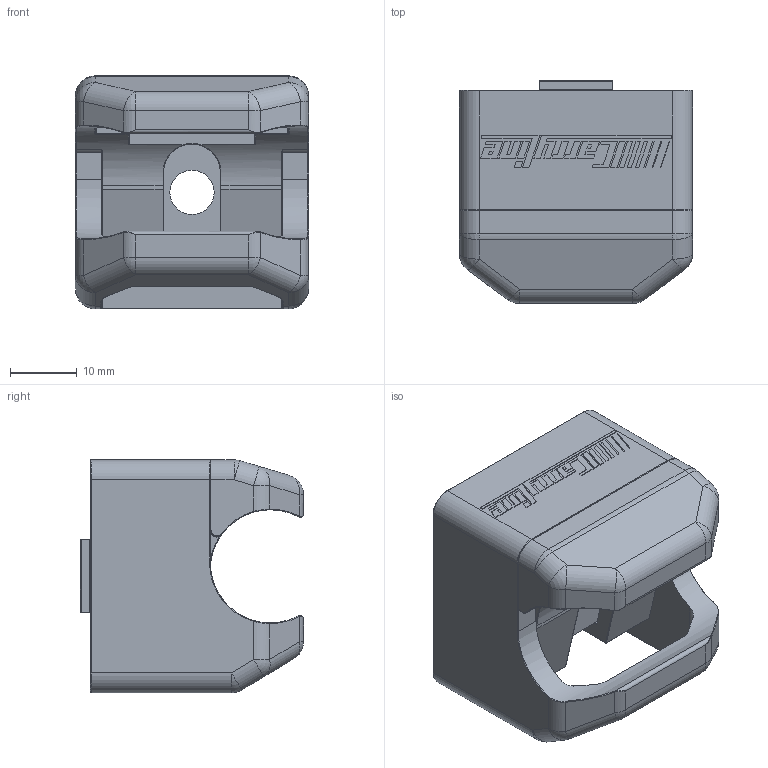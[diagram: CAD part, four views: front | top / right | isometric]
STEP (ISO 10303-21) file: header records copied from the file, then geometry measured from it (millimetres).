
FILE_DESCRIPTION((''),'2;1');
FILE_NAME('X:\Ritarkiv\STEP-Carryline Standarddelar\300-1000.stp','2009-11-02T09:59:57',('per'),(''),'Autodesk Inventor 2010','Autodesk Inventor 2010','');
FILE_SCHEMA(('AUTOMOTIVE_DESIGN { 1 0 10303 214 1 1 1 1 }'));
Length unit declared in the file: millimetre
Products named in the file (1): 300-1000
Bounding box: 35 x 33.5 x 35.1 mm (x, y, z)
Volume: 20041.1 mm3; surface area: 13192.9 mm2
Topology: 3 solids, 3 shells, 462 faces, 1112 edges, 628 vertices
Faces by surface type: plane 195, cylinder 142, bspline 68, torus 33, sphere 24
Entity records: 15033 total; most frequent: CARTESIAN_POINT 4172, DIRECTION 2169, ORIENTED_EDGE 2128, EDGE_CURVE 1064, AXIS2_PLACEMENT_3D 764, VECTOR 641, LINE 641, VERTEX_POINT 627
